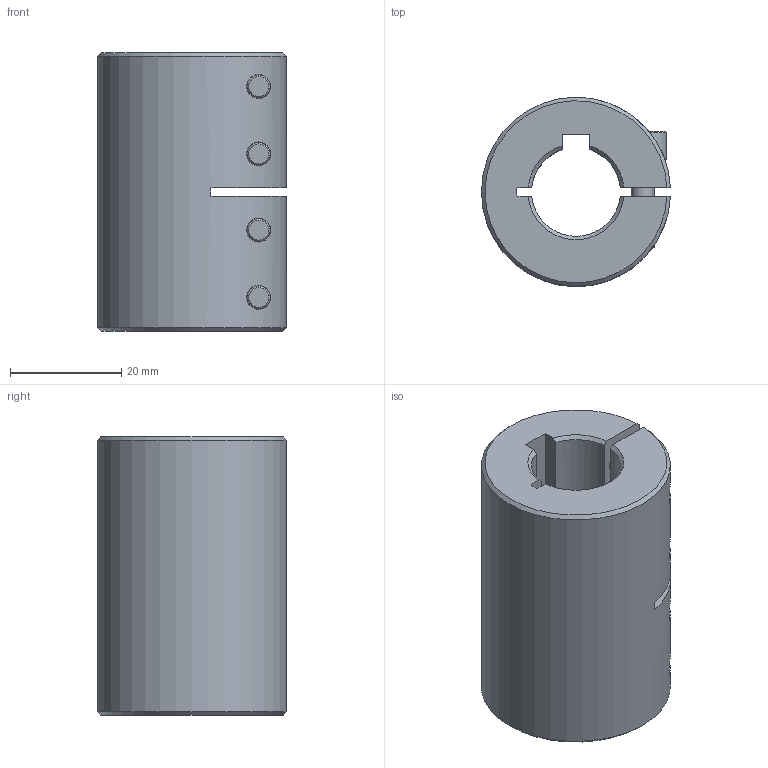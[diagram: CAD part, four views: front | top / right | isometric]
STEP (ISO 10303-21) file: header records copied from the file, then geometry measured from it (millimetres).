
FILE_DESCRIPTION((''),'2;1');
FILE_NAME('MCLC-16-16','2016-09-07T',('SYSTEM'),(''),'PRO/ENGINEER BY PARAMETRIC TECHNOLOGY CORPORATION, 2015110','PRO/ENGINEER BY PARAMETRIC TECHNOLOGY CORPORATION, 2015110','');
FILE_SCHEMA(('AUTOMOTIVE_DESIGN { 1 0 10303 214 1 1 1 1 }'));
Length unit declared in the file: inch
Products named in the file (1): MCLC-16-16
Bounding box: 33.98 x 33.99 x 50 mm (x, y, z)
Volume: 32535.8 mm3; surface area: 13565.1 mm2
Topology: 1 solids, 1 shells, 132 faces, 319 edges, 205 vertices
Faces by surface type: plane 68, cylinder 40, cone 24
Entity records: 5105 total; most frequent: CARTESIAN_POINT 968, DIRECTION 664, ORIENTED_EDGE 638, EDGE_CURVE 319, AXIS2_PLACEMENT_3D 241, VERTEX_POINT 205, VECTOR 182, LINE 182
